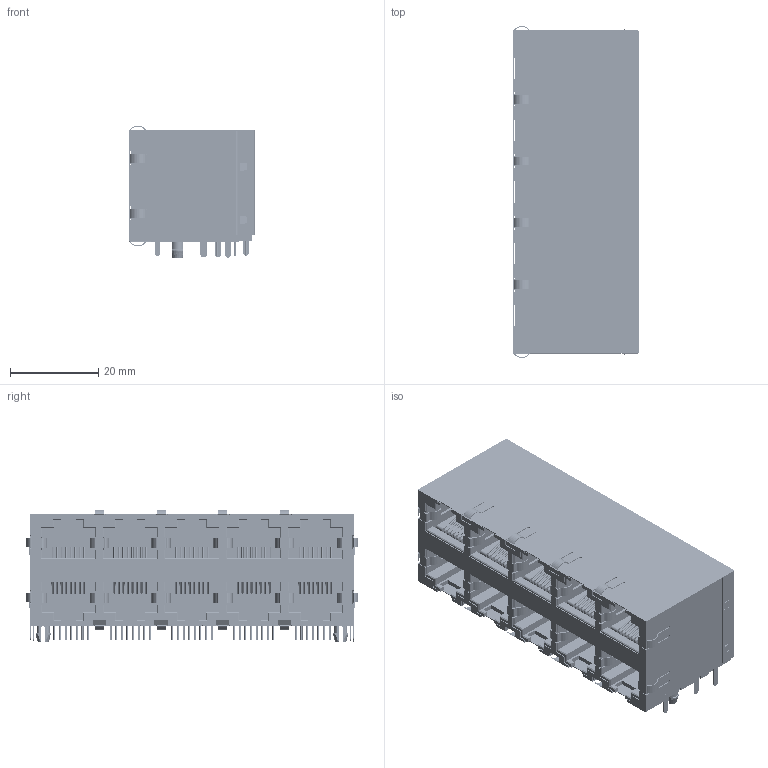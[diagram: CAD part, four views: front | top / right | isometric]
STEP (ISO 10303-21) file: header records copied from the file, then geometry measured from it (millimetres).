
FILE_DESCRIPTION((''),'2;1');
FILE_NAME('6_8_STP_ASM_1_ASM','2025-06-16T14:33:17',('DGKYD'),(''),'CREO PARAMETRIC BY PTC INC, 2019010','CREO PARAMETRIC BY PTC INC, 2019010','');
FILE_SCHEMA(('CONFIG_CONTROL_DESIGN'));
Products named in the file (267): 6_8_STP_1_1; 6_8_STP_2_1; 6_8_STP_3_1; 6_8_STP_4_1; 6_8_STP_5_1; 6_8_STP_6_1; 6_8_STP_7_1; 6_8_STP_8_1; 6_8_STP_9_1; 6_8_STP_10_1; 6_8_STP_11_1; 6_8_STP_12_1; 6_8_STP_13_1; 6_8_STP_14_1; 6_8_STP_15_1; 6_8_STP_16_1; 6_8_STP_17_1; 6_8_STP_18_1; 6_8_STP_19_1; 6_8_STP_20_1; 6_8_STP_21_1; 6_8_STP_22_1; 6_8_STP_23_1; 6_8_STP_24_1; 6_8_STP_25_1; 6_8_STP_26_1; 6_8_STP_27_1; 6_8_STP_28_1; 6_8_STP_29_1; 6_8_STP_30_1; 6_8_STP_31_1; 6_8_STP_32_1; 6_8_STP_33_1; 6_8_STP_34_1; 6_8_STP_35_1; 6_8_STP_36_1; 6_8_STP_37_1; 6_8_STP_38_1; 6_8_STP_39_1; 6_8_STP_40_1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
Assembly tree (266 placements, depth 2):
  6_8_STP_ASM_1_ASM
    6_8_STP_1_1
    6_8_STP_2_1
    6_8_STP_3_1
    6_8_STP_4_1
    6_8_STP_5_1
    6_8_STP_6_1
    6_8_STP_7_1
    6_8_STP_8_1
    6_8_STP_9_1
    6_8_STP_10_1
    6_8_STP_11_1
    6_8_STP_12_1
    6_8_STP_13_1
    6_8_STP_14_1
    6_8_STP_15_1
    6_8_STP_16_1
    6_8_STP_17_1
    6_8_STP_18_1
    6_8_STP_19_1
    6_8_STP_20_1
    6_8_STP_21_1
    6_8_STP_22_1
    6_8_STP_23_1
    6_8_STP_24_1
    6_8_STP_25_1
    6_8_STP_26_1
    6_8_STP_27_1
    6_8_STP_28_1
    6_8_STP_29_1
    6_8_STP_30_1
    6_8_STP_31_1
    6_8_STP_32_1
    6_8_STP_33_1
    6_8_STP_34_1
    6_8_STP_35_1
    6_8_STP_36_1
    6_8_STP_37_1
    6_8_STP_38_1
    6_8_STP_39_1
    6_8_STP_40_1
    6_8_STP_41_1
    6_8_STP_42_1
    6_8_STP_43_1
    6_8_STP_44_1
    6_8_STP_45_1
    6_8_STP_46_1
    6_8_STP_47_1
    6_8_STP_48_1
    6_8_STP_49_1
    6_8_STP_50_1
    6_8_STP_51_1
    6_8_STP_52_1
    6_8_STP_53_1
    6_8_STP_54_1
    6_8_STP_55_1
    6_8_STP_56_1
    6_8_STP_57_1
    6_8_STP_58_1
    6_8_STP_59_1
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Bounding box: 28.3 x 75.07 x 30.01 mm (x, y, z)
Volume: 27421.7 mm3; surface area: 63902.2 mm2
Topology: 266 solids, 266 shells, 6987 faces, 18391 edges, 11810 vertices
Faces by surface type: plane 4167, cylinder 1850, torus 960, cone 8, extrusion 2
Entity records: 221377 total; most frequent: DIRECTION 38961, CARTESIAN_POINT 38605, ORIENTED_EDGE 36782, EDGE_CURVE 18391, AXIS2_PLACEMENT_3D 13222, VECTOR 12517, LINE 12515, VERTEX_POINT 11810
